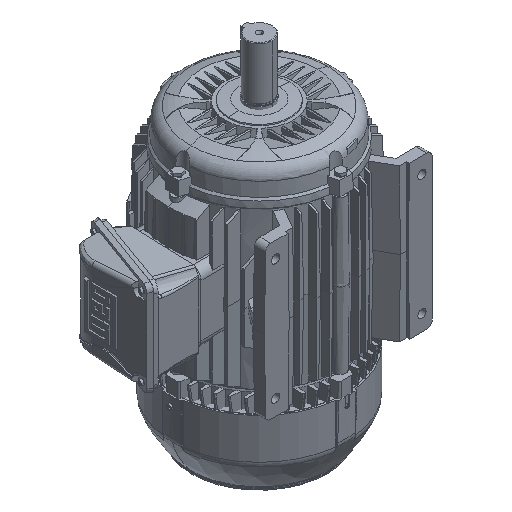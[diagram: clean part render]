
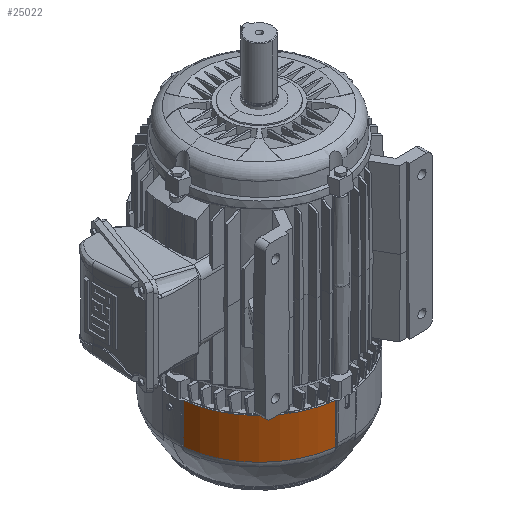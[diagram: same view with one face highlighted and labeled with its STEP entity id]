
A CAD part, isometric view. The second image highlights one B-rep face of the part: STEP entity #25022.
In plain terms, the highlighted cylindrical face has radius 127.75 mm (diameter 255.5 mm), a partial arc.
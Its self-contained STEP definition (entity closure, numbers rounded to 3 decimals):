
#7219 = VERTEX_POINT ( 'NONE', #29578 ) ;
#9559 = DIRECTION ( 'NONE',  ( 0., 0., 1. ) ) ;
#14415 = CARTESIAN_POINT ( 'NONE',  ( -126.88, -14.883, -270.799 ) ) ;
#17178 = VECTOR ( 'NONE', #31588, 1000. ) ;
#22962 = EDGE_CURVE ( 'NONE', #96203, #91266, #34629, .T. ) ;
#23429 = ORIENTED_EDGE ( 'NONE', *, *, #83570, .T. ) ;
#24116 = VECTOR ( 'NONE', #81667, 1000. ) ;
#25022 = ADVANCED_FACE ( 'NONE', ( #57508 ), #76946, .T. ) ;
#29578 = CARTESIAN_POINT ( 'NONE',  ( -14.883, -126.88, -140.85 ) ) ;
#29937 = VERTEX_POINT ( 'NONE', #73275 ) ;
#30035 = EDGE_CURVE ( 'NONE', #7219, #29937, #107097, .T. ) ;
#31588 = DIRECTION ( 'NONE',  ( 0., 0., -1. ) ) ;
#34629 = CIRCLE ( 'NONE', #105830, 127.75 ) ;
#38094 = ORIENTED_EDGE ( 'NONE', *, *, #89254, .T. ) ;
#41658 = DIRECTION ( 'NONE',  ( 0., -1., 0. ) ) ;
#46712 = LINE ( 'NONE', #73366, #24116 ) ;
#49951 = CARTESIAN_POINT ( 'NONE',  ( 0., 0., -140.85 ) ) ;
#50091 = CARTESIAN_POINT ( 'NONE',  ( -126.88, -14.883, -200.582 ) ) ;
#57508 = FACE_OUTER_BOUND ( 'NONE', #103442, .T. ) ;
#58438 = DIRECTION ( 'NONE',  ( 0., -1., 0. ) ) ;
#60428 = CARTESIAN_POINT ( 'NONE',  ( 0., 0., -200.582 ) ) ;
#64874 = LINE ( 'NONE', #14415, #17178 ) ;
#65597 = ORIENTED_EDGE ( 'NONE', *, *, #30035, .T. ) ;
#65949 = CARTESIAN_POINT ( 'NONE',  ( -14.883, -126.88, -200.582 ) ) ;
#68726 = DIRECTION ( 'NONE',  ( 0., 1., 0. ) ) ;
#73275 = CARTESIAN_POINT ( 'NONE',  ( -126.88, -14.883, -140.85 ) ) ;
#73366 = CARTESIAN_POINT ( 'NONE',  ( -14.883, -126.88, -270.799 ) ) ;
#76946 = CYLINDRICAL_SURFACE ( 'NONE', #98627, 127.75 ) ;
#81667 = DIRECTION ( 'NONE',  ( 0., 0., 1. ) ) ;
#83570 = EDGE_CURVE ( 'NONE', #91266, #7219, #46712, .T. ) ;
#89254 = EDGE_CURVE ( 'NONE', #29937, #96203, #64874, .T. ) ;
#91266 = VERTEX_POINT ( 'NONE', #65949 ) ;
#91570 = DIRECTION ( 'NONE',  ( 0., 0., -1. ) ) ;
#95610 = AXIS2_PLACEMENT_3D ( 'NONE', #49951, #107815, #58438 ) ;
#96203 = VERTEX_POINT ( 'NONE', #50091 ) ;
#98627 = AXIS2_PLACEMENT_3D ( 'NONE', #104947, #91570, #41658 ) ;
#100875 = ORIENTED_EDGE ( 'NONE', *, *, #22962, .T. ) ;
#103442 = EDGE_LOOP ( 'NONE', ( #100875, #23429, #65597, #38094 ) ) ;
#104947 = CARTESIAN_POINT ( 'NONE',  ( 0., 0., -270.799 ) ) ;
#105830 = AXIS2_PLACEMENT_3D ( 'NONE', #60428, #9559, #68726 ) ;
#107097 = CIRCLE ( 'NONE', #95610, 127.75 ) ;
#107815 = DIRECTION ( 'NONE',  ( 0., 0., -1. ) ) ;
